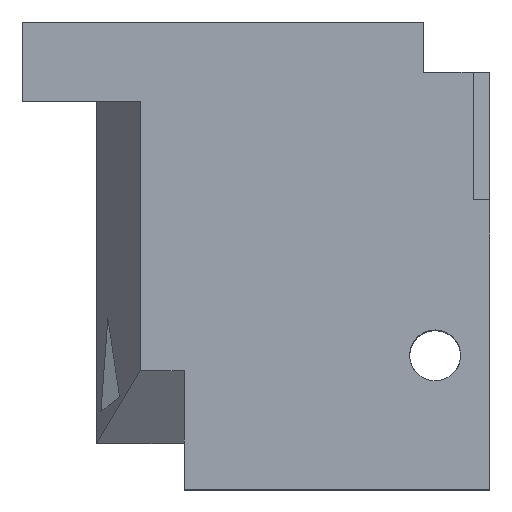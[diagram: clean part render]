
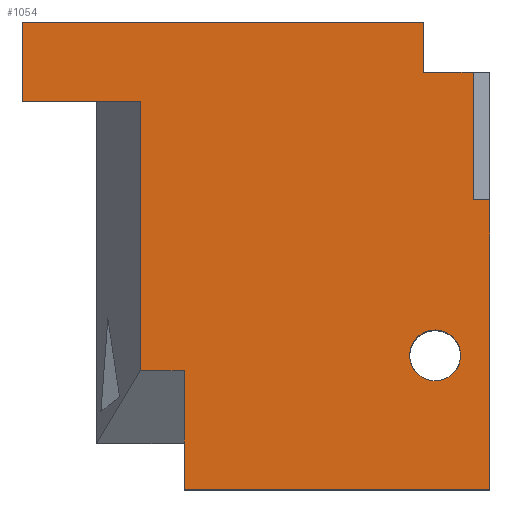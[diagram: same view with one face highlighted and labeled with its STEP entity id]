
A CAD part, top view. The second image highlights one B-rep face of the part: STEP entity #1054.
In plain terms, the highlighted planar face has unit normal (0, 0, 1).
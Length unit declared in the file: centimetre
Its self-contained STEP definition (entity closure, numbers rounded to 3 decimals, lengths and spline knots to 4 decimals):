
#8 = ORIENTED_EDGE ( 'NONE', *, *, #1200, .T. ) ;
#20 = VECTOR ( 'NONE', #1160, 100. ) ;
#24 = VERTEX_POINT ( 'NONE', #468 ) ;
#66 = CIRCLE ( 'NONE', #330, 54.4828 ) ;
#77 = LINE ( 'NONE', #1316, #1082 ) ;
#89 = ORIENTED_EDGE ( 'NONE', *, *, #464, .T. ) ;
#99 = DIRECTION ( 'NONE',  ( 0., -1., 0. ) ) ;
#105 = DIRECTION ( 'NONE',  ( -1., 0., 0. ) ) ;
#106 = ORIENTED_EDGE ( 'NONE', *, *, #701, .T. ) ;
#113 = EDGE_CURVE ( 'NONE', #943, #514, #244, .T. ) ;
#114 = VERTEX_POINT ( 'NONE', #1104 ) ;
#115 = VERTEX_POINT ( 'NONE', #1213 ) ;
#116 = DIRECTION ( 'NONE',  ( 0., 0., 1. ) ) ;
#151 = VECTOR ( 'NONE', #945, 100. ) ;
#162 = CARTESIAN_POINT ( 'NONE',  ( 858.8152, 892.3815, 1000. ) ) ;
#167 = PLANE ( 'NONE',  #1283 ) ;
#180 = VERTEX_POINT ( 'NONE', #1027 ) ;
#187 = DIRECTION ( 'NONE',  ( -1., 0., 0. ) ) ;
#213 = EDGE_CURVE ( 'NONE', #742, #115, #292, .T. ) ;
#239 = ORIENTED_EDGE ( 'NONE', *, *, #449, .F. ) ;
#244 = LINE ( 'NONE', #1099, #269 ) ;
#253 = LINE ( 'NONE', #900, #1062 ) ;
#260 = VERTEX_POINT ( 'NONE', #1344 ) ;
#269 = VECTOR ( 'NONE', #1208, 100. ) ;
#292 = LINE ( 'NONE', #1145, #419 ) ;
#293 = EDGE_CURVE ( 'NONE', #943, #1209, #77, .T. ) ;
#299 = CARTESIAN_POINT ( 'NONE',  ( 858.8152, 1000., 1000. ) ) ;
#317 = VERTEX_POINT ( 'NONE', #1215 ) ;
#329 = ORIENTED_EDGE ( 'NONE', *, *, #293, .F. ) ;
#330 = AXIS2_PLACEMENT_3D ( 'NONE', #674, #994, #365 ) ;
#365 = DIRECTION ( 'NONE',  ( 1., 0., 0. ) ) ;
#373 = VECTOR ( 'NONE', #99, 100. ) ;
#388 = DIRECTION ( 'NONE',  ( 0., 0., 1. ) ) ;
#419 = VECTOR ( 'NONE', #187, 100. ) ;
#430 = ORIENTED_EDGE ( 'NONE', *, *, #1122, .F. ) ;
#433 = DIRECTION ( 'NONE',  ( 1., 0., 0. ) ) ;
#439 = EDGE_CURVE ( 'NONE', #24, #557, #1360, .T. ) ;
#449 = EDGE_CURVE ( 'NONE', #260, #683, #1370, .T. ) ;
#464 = EDGE_CURVE ( 'NONE', #115, #317, #618, .T. ) ;
#465 = CARTESIAN_POINT ( 'NONE',  ( 1000., 1000., 1000. ) ) ;
#468 = CARTESIAN_POINT ( 'NONE',  ( 346.5145, 0., 1000. ) ) ;
#470 = LINE ( 'NONE', #465, #1369 ) ;
#472 = EDGE_CURVE ( 'NONE', #557, #1287, #1165, .T. ) ;
#514 = VERTEX_POINT ( 'NONE', #985 ) ;
#534 = CARTESIAN_POINT ( 'NONE',  ( 883.441, 286.4727, 1000. ) ) ;
#542 = ORIENTED_EDGE ( 'NONE', *, *, #644, .T. ) ;
#553 = VECTOR ( 'NONE', #845, 100. ) ;
#556 = VECTOR ( 'NONE', #930, 100. ) ;
#557 = VERTEX_POINT ( 'NONE', #865 ) ;
#567 = CARTESIAN_POINT ( 'NONE',  ( 964.6954, 619.0786, 1000. ) ) ;
#573 = AXIS2_PLACEMENT_3D ( 'NONE', #534, #116, #433 ) ;
#603 = ORIENTED_EDGE ( 'NONE', *, *, #113, .T. ) ;
#614 = VECTOR ( 'NONE', #105, 100. ) ;
#618 = LINE ( 'NONE', #970, #151 ) ;
#644 = EDGE_CURVE ( 'NONE', #1173, #1209, #470, .T. ) ;
#645 = ORIENTED_EDGE ( 'NONE', *, *, #894, .F. ) ;
#674 = CARTESIAN_POINT ( 'NONE',  ( 883.441, 286.4727, 1000. ) ) ;
#683 = VERTEX_POINT ( 'NONE', #893 ) ;
#700 = CARTESIAN_POINT ( 'NONE',  ( 0., 0., 1000. ) ) ;
#701 = EDGE_CURVE ( 'NONE', #24, #1173, #253, .T. ) ;
#742 = VERTEX_POINT ( 'NONE', #299 ) ;
#744 = CARTESIAN_POINT ( 'NONE',  ( 346.5145, 0., 1000. ) ) ;
#755 = ORIENTED_EDGE ( 'NONE', *, *, #472, .F. ) ;
#835 = LINE ( 'NONE', #1368, #373 ) ;
#845 = DIRECTION ( 'NONE',  ( 0., 1., 0. ) ) ;
#848 = CARTESIAN_POINT ( 'NONE',  ( 1000., 0., 1000. ) ) ;
#857 = CARTESIAN_POINT ( 'NONE',  ( 1000., 619.0786, 1000. ) ) ;
#865 = CARTESIAN_POINT ( 'NONE',  ( 346.5145, 253.6846, 1000. ) ) ;
#879 = DIRECTION ( 'NONE',  ( 1., 0., 0. ) ) ;
#882 = EDGE_LOOP ( 'NONE', ( #944, #239 ) ) ;
#893 = CARTESIAN_POINT ( 'NONE',  ( 937.9238, 286.4727, 1000. ) ) ;
#894 = EDGE_CURVE ( 'NONE', #114, #514, #1116, .T. ) ;
#900 = CARTESIAN_POINT ( 'NONE',  ( 0., 0., 1000. ) ) ;
#901 = EDGE_CURVE ( 'NONE', #683, #260, #66, .T. ) ;
#917 = CARTESIAN_POINT ( 'NONE',  ( 0., 830.9004, 1000. ) ) ;
#930 = DIRECTION ( 'NONE',  ( -1., 0., 0. ) ) ;
#939 = LINE ( 'NONE', #917, #556 ) ;
#943 = VERTEX_POINT ( 'NONE', #567 ) ;
#944 = ORIENTED_EDGE ( 'NONE', *, *, #901, .F. ) ;
#945 = DIRECTION ( 'NONE',  ( 0., -1., 0. ) ) ;
#970 = CARTESIAN_POINT ( 'NONE',  ( 0., 1000., 1000. ) ) ;
#985 = CARTESIAN_POINT ( 'NONE',  ( 964.6954, 892.3815, 1000. ) ) ;
#994 = DIRECTION ( 'NONE',  ( 0., 0., 1. ) ) ;
#1027 = CARTESIAN_POINT ( 'NONE',  ( 252.4001, 830.9004, 1000. ) ) ;
#1051 = CARTESIAN_POINT ( 'NONE',  ( 346.5145, 253.6846, 1000. ) ) ;
#1054 = ADVANCED_FACE ( 'NONE', ( #1251, #1340 ), #167, .T. ) ;
#1062 = VECTOR ( 'NONE', #879, 100. ) ;
#1082 = VECTOR ( 'NONE', #1223, 100. ) ;
#1084 = ORIENTED_EDGE ( 'NONE', *, *, #439, .F. ) ;
#1099 = CARTESIAN_POINT ( 'NONE',  ( 964.6954, 619.0786, 1000. ) ) ;
#1104 = CARTESIAN_POINT ( 'NONE',  ( 858.8152, 892.3815, 1000. ) ) ;
#1116 = LINE ( 'NONE', #162, #1183 ) ;
#1122 = EDGE_CURVE ( 'NONE', #180, #317, #939, .T. ) ;
#1145 = CARTESIAN_POINT ( 'NONE',  ( 0., 1000., 1000. ) ) ;
#1160 = DIRECTION ( 'NONE',  ( 0., -1., 0. ) ) ;
#1165 = LINE ( 'NONE', #1051, #614 ) ;
#1173 = VERTEX_POINT ( 'NONE', #848 ) ;
#1183 = VECTOR ( 'NONE', #1201, 100. ) ;
#1190 = EDGE_CURVE ( 'NONE', #742, #114, #835, .T. ) ;
#1193 = DIRECTION ( 'NONE',  ( 0., 1., 0. ) ) ;
#1200 = EDGE_CURVE ( 'NONE', #180, #1287, #1268, .T. ) ;
#1201 = DIRECTION ( 'NONE',  ( 1., 0., 0. ) ) ;
#1208 = DIRECTION ( 'NONE',  ( 0., 1., 0. ) ) ;
#1209 = VERTEX_POINT ( 'NONE', #857 ) ;
#1213 = CARTESIAN_POINT ( 'NONE',  ( 0., 1000., 1000. ) ) ;
#1215 = CARTESIAN_POINT ( 'NONE',  ( 0., 830.9004, 1000. ) ) ;
#1223 = DIRECTION ( 'NONE',  ( 1., 0., 0. ) ) ;
#1231 = DIRECTION ( 'NONE',  ( 1., 0., 0. ) ) ;
#1248 = EDGE_LOOP ( 'NONE', ( #8, #755, #1084, #106, #542, #329, #603, #645, #1315, #1267, #89, #430 ) ) ;
#1251 = FACE_OUTER_BOUND ( 'NONE', #1248, .T. ) ;
#1257 = CARTESIAN_POINT ( 'NONE',  ( 252.4001, 830.9004, 1000. ) ) ;
#1267 = ORIENTED_EDGE ( 'NONE', *, *, #213, .T. ) ;
#1268 = LINE ( 'NONE', #1257, #20 ) ;
#1283 = AXIS2_PLACEMENT_3D ( 'NONE', #700, #388, #1231 ) ;
#1287 = VERTEX_POINT ( 'NONE', #1308 ) ;
#1308 = CARTESIAN_POINT ( 'NONE',  ( 252.4001, 253.6846, 1000. ) ) ;
#1315 = ORIENTED_EDGE ( 'NONE', *, *, #1190, .F. ) ;
#1316 = CARTESIAN_POINT ( 'NONE',  ( 964.6954, 619.0786, 1000. ) ) ;
#1340 = FACE_BOUND ( 'NONE', #882, .T. ) ;
#1344 = CARTESIAN_POINT ( 'NONE',  ( 828.9582, 286.4727, 1000. ) ) ;
#1360 = LINE ( 'NONE', #744, #553 ) ;
#1368 = CARTESIAN_POINT ( 'NONE',  ( 858.8152, 892.3815, 1000. ) ) ;
#1369 = VECTOR ( 'NONE', #1193, 100. ) ;
#1370 = CIRCLE ( 'NONE', #573, 54.4828 ) ;
